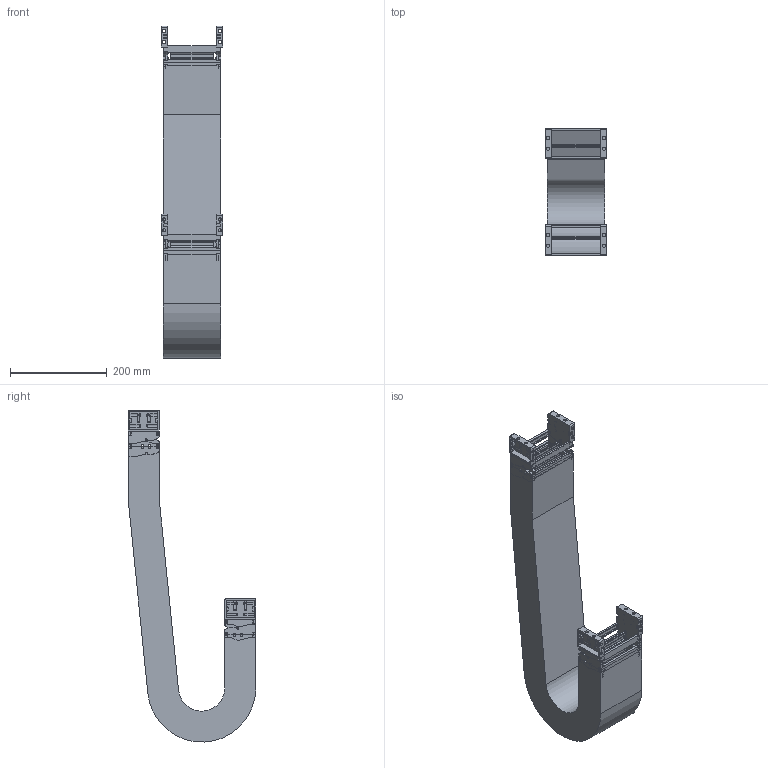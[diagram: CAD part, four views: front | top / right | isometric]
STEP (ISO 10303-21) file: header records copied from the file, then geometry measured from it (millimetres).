
FILE_DESCRIPTION((''),'2;1');
FILE_NAME('KST-50100-075_ASM','2017-12-08T',('KUNI004K'),(''),'PRO/ENGINEER BY PARAMETRIC TECHNOLOGY CORPORATION, 2015200','PRO/ENGINEER BY PARAMETRIC TECHNOLOGY CORPORATION, 2015200','');
FILE_SCHEMA(('AUTOMOTIVE_DESIGN { 1 0 10303 214 1 1 1 1 }'));
Length unit declared in the file: millimetre
Products named in the file (13): 50FBR; 50FBL; 40100C; KST50FB_W100_ASM; KST50075R; KST50075L; 40100H; KST50100-075_1_ASM; KST50100_R75_BODY; 50MBR; 50MBL; KST50MB_W100_ASM; KST-50100-075_ASM
Assembly tree (19 placements, depth 3):
  KST-50100-075_ASM
    KST50FB_W100_ASM
      50FBR
      50FBL
      40100C  x2
    KST50100-075_1_ASM  x2
      KST50075R
      KST50075L
      40100C
      40100H
    KST50100_R75_BODY
    KST50MB_W100_ASM
      50MBR
      50MBL
      40100C  x2
Bounding box: 128 x 264 x 687.41 mm (x, y, z)
Volume: 2507954.2 mm3; surface area: 906458.3 mm2
Topology: 21 solids, 21 shells, 2840 faces, 7758 edges, 4988 vertices
Faces by surface type: plane 1478, cylinder 986, bspline 308, torus 68
Entity records: 69130 total; most frequent: CARTESIAN_POINT 14021, ORIENTED_EDGE 7400, DIRECTION 6708, PRESENTATION_STYLE_ASSIGNMENT 5048, STYLED_ITEM 5048, CURVE_STYLE 3700, EDGE_CURVE 3700, VECTOR 2392
